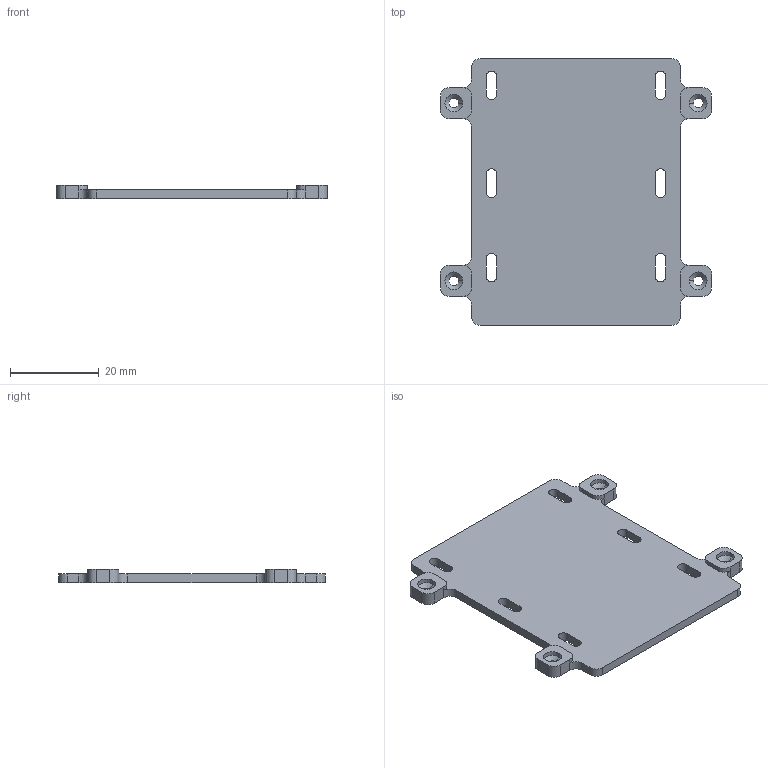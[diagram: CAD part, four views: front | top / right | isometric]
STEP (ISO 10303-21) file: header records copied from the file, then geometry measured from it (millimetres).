
FILE_DESCRIPTION (( 'STEP AP214' ), '1' );
FILE_NAME ('侦测固定板1.STEP', '2026-09-29T10:34:58', ( '微软用户' ), ( '微软中国' ), 'SwSTEP 2.0', 'SolidWorks 2016', '' );
FILE_SCHEMA (( 'AUTOMOTIVE_DESIGN' ));
Length unit declared in the file: millimetre
Products named in the file (1): 淈聆嘐隅啣1
Bounding box: 61 x 60 x 3 mm (x, y, z)
Volume: 5943 mm3; surface area: 6710.8 mm2
Topology: 1 solids, 1 shells, 106 faces, 288 edges, 184 vertices
Faces by surface type: cylinder 56, plane 42, cone 8
Entity records: 3426 total; most frequent: DIRECTION 614, CARTESIAN_POINT 579, ORIENTED_EDGE 576, EDGE_CURVE 288, AXIS2_PLACEMENT_3D 219, VERTEX_POINT 184, LINE 176, VECTOR 176
